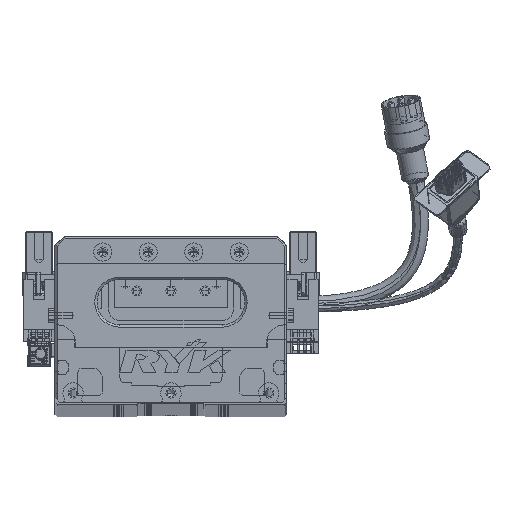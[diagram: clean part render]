
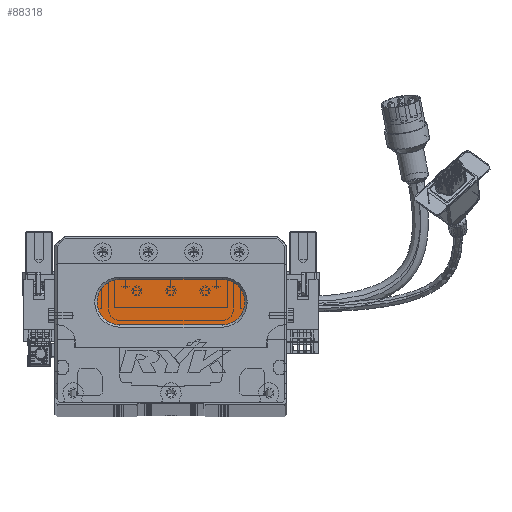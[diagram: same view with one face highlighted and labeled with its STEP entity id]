
A CAD part, top view. The second image highlights one B-rep face of the part: STEP entity #88318.
In plain terms, the highlighted planar face has unit normal (0, 0, 1) as drawn and (0, 0, -1) by its records, which use the part's own axes.
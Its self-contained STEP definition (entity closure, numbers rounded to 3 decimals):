
#1237 = AXIS2_PLACEMENT_3D ( 'NONE', #22800, #42138, #77107 ) ;
#1535 = AXIS2_PLACEMENT_3D ( 'NONE', #76121, #89984, #10973 ) ;
#3664 = VERTEX_POINT ( 'NONE', #78775 ) ;
#4175 = ORIENTED_EDGE ( 'NONE', *, *, #92746, .T. ) ;
#8152 = VERTEX_POINT ( 'NONE', #30064 ) ;
#9467 = LINE ( 'NONE', #73831, #18444 ) ;
#10973 = DIRECTION ( 'NONE',  ( -1., 0., 0. ) ) ;
#17545 = DIRECTION ( 'NONE',  ( 0., 0., -1. ) ) ;
#18444 = VECTOR ( 'NONE', #79506, 1000. ) ;
#22800 = CARTESIAN_POINT ( 'NONE',  ( 73.5, 44., 13. ) ) ;
#25802 = ORIENTED_EDGE ( 'NONE', *, *, #26907, .T. ) ;
#26346 = DIRECTION ( 'NONE',  ( -1., 0., 0. ) ) ;
#26907 = EDGE_CURVE ( 'NONE', #27675, #53160, #9467, .T. ) ;
#27675 = VERTEX_POINT ( 'NONE', #82801 ) ;
#27881 = CIRCLE ( 'NONE', #1535, 10. ) ;
#30064 = CARTESIAN_POINT ( 'NONE',  ( 18.5, 44., 13. ) ) ;
#32137 = EDGE_CURVE ( 'NONE', #43069, #8152, #64306, .T. ) ;
#33968 = CARTESIAN_POINT ( 'NONE',  ( 28.5, 44., 13. ) ) ;
#38398 = DIRECTION ( 'NONE',  ( -1., 0., 0. ) ) ;
#42138 = DIRECTION ( 'NONE',  ( 0., 0., -1. ) ) ;
#43069 = VERTEX_POINT ( 'NONE', #81902 ) ;
#44272 = AXIS2_PLACEMENT_3D ( 'NONE', #33968, #62021, #47417 ) ;
#45773 = CIRCLE ( 'NONE', #84742, 10. ) ;
#47417 = DIRECTION ( 'NONE',  ( -1., 0., 0. ) ) ;
#48488 = CARTESIAN_POINT ( 'NONE',  ( 73.5, 54., 13. ) ) ;
#51583 = ORIENTED_EDGE ( 'NONE', *, *, #74980, .T. ) ;
#53048 = FACE_OUTER_BOUND ( 'NONE', #91337, .T. ) ;
#53160 = VERTEX_POINT ( 'NONE', #48488 ) ;
#62021 = DIRECTION ( 'NONE',  ( 0., 0., -1. ) ) ;
#64306 = CIRCLE ( 'NONE', #44272, 10. ) ;
#68963 = PLANE ( 'NONE',  #1237 ) ;
#69023 = VECTOR ( 'NONE', #26346, 1000. ) ;
#69261 = ORIENTED_EDGE ( 'NONE', *, *, #32137, .T. ) ;
#69336 = ORIENTED_EDGE ( 'NONE', *, *, #76335, .T. ) ;
#69987 = CARTESIAN_POINT ( 'NONE',  ( 73.5, 34., 13. ) ) ;
#73831 = CARTESIAN_POINT ( 'NONE',  ( 73.5, 54., 13. ) ) ;
#74980 = EDGE_CURVE ( 'NONE', #8152, #27675, #45773, .T. ) ;
#76121 = CARTESIAN_POINT ( 'NONE',  ( 73.5, 44., 13. ) ) ;
#76335 = EDGE_CURVE ( 'NONE', #3664, #43069, #86942, .T. ) ;
#77107 = DIRECTION ( 'NONE',  ( -1., 0., 0. ) ) ;
#78775 = CARTESIAN_POINT ( 'NONE',  ( 73.5, 34., 13. ) ) ;
#79506 = DIRECTION ( 'NONE',  ( 1., 0., 0. ) ) ;
#81214 = CARTESIAN_POINT ( 'NONE',  ( 28.5, 44., 13. ) ) ;
#81902 = CARTESIAN_POINT ( 'NONE',  ( 28.5, 34., 13. ) ) ;
#82801 = CARTESIAN_POINT ( 'NONE',  ( 28.5, 54., 13. ) ) ;
#84742 = AXIS2_PLACEMENT_3D ( 'NONE', #81214, #17545, #38398 ) ;
#86942 = LINE ( 'NONE', #69987, #69023 ) ;
#88318 = ADVANCED_FACE ( 'NONE', ( #53048 ), #68963, .T. ) ;
#89984 = DIRECTION ( 'NONE',  ( 0., 0., -1. ) ) ;
#91337 = EDGE_LOOP ( 'NONE', ( #4175, #69336, #69261, #51583, #25802 ) ) ;
#92746 = EDGE_CURVE ( 'NONE', #53160, #3664, #27881, .T. ) ;
